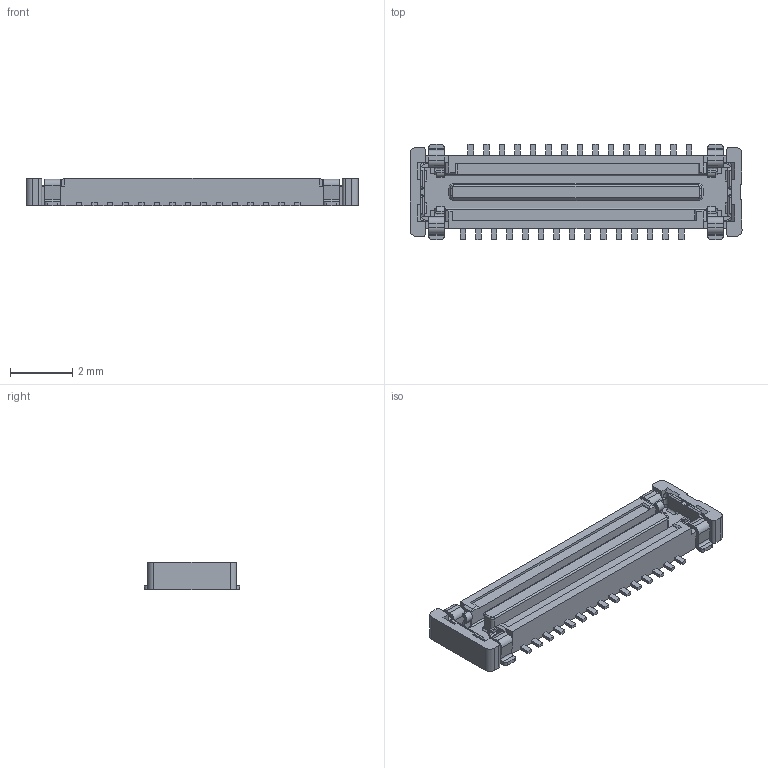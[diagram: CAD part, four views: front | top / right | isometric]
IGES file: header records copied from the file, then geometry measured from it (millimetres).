
Start section: Elysium IGES Interface
Global section: file name: C:\Users\1088\Desktop\XSLS00-xx\XSLS00-30_IG.igs; native system: Creo Elements/Direct Modeling 19.0F  14-Feb-2017; preprocessor: Creo Element/Direct IGES_3D V2.2; author: Unknown; organization: Unknown; date: 20170807.110808; units: millimetre
Bounding box: 10.65 x 3.05 x 0.88 mm (x, y, z)
Volume: 17.1 mm3; surface area: 120 mm2
Topology: 1 solids, 3 shells, 533 faces, 1554 edges, 1008 vertices
Faces by surface type: bspline 533
